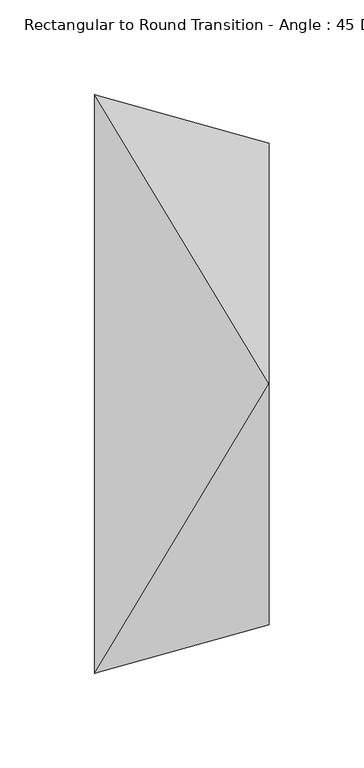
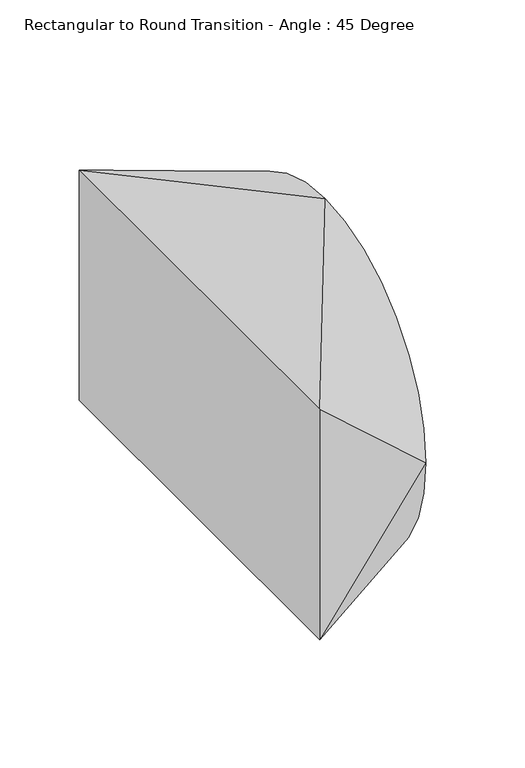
"""IFC4 building model written with IfcOpenShell, lengths in millimetres: duct fitting geometry, Rectangular to Round Transition - Angle : 45 Degree."""

import ifcopenshell
import ifcopenshell.guid

model = None  # the IFC model being written
_history = None  # IfcOwnerHistory: only IFC2X3 demands one
_inside = {}  # id of a spatial element -> (the spatial element, [elements in it])
_under = {}  # id of a project, library or spatial element -> (it, [spatial elements below it])
_declared = {}  # id of a project -> (the project, [libraries it declares])
_typed = {}  # id of a type object -> (the type object, [elements of that type])
_made_of = {}  # id of a material, layer set ... -> (it, [elements and type objects made of it])


def new_model(schema):
    """Start an empty IFC model of exactly this schema.

    Asked for "IFC4X3", IfcOpenShell would pick the latest addendum, in which some entities
    have other attributes; the version numbers below select the first issue.
    IFC2X3 requires an IfcOwnerHistory on every rooted entity: one is made here for all.
    """
    global model, _history
    if schema == "IFC4X3":
        model = ifcopenshell.file(schema_version=(4, 3, 0, 0))
    else:
        model = ifcopenshell.file(schema=schema)
    _inside.clear()
    _under.clear()
    _declared.clear()
    _typed.clear()
    _made_of.clear()
    _history = None
    if model.schema == "IFC2X3":
        org = make("IfcOrganization", Name="unknown")
        user = make(
            "IfcPersonAndOrganization",
            ThePerson=make("IfcPerson", FamilyName="unknown"),
            TheOrganization=org,
        )
        app = make(
            "IfcApplication",
            ApplicationDeveloper=org,
            Version="unknown",
            ApplicationFullName="unknown",
            ApplicationIdentifier="unknown",
        )
        _history = make(
            "IfcOwnerHistory",
            OwningUser=user,
            OwningApplication=app,
            ChangeAction="ADDED",
            CreationDate=0,
        )
    return model


def make(cls, **values):
    """One entity of the class cls with the attributes given. An attribute that is None is left unset."""
    return model.create_entity(
        cls, **{name: value for name, value in values.items() if value is not None}
    )


def rooted(cls, **values):
    """An entity with a GlobalId (a new one), such as an element, a storey or a relation."""
    return make(cls, GlobalId=ifcopenshell.guid.new(), OwnerHistory=_history, **values)


def si_unit(unit_type, name, prefix=None):
    """IfcSIUnit, for example si_unit("LENGTHUNIT", "METRE", prefix="MILLI")."""
    return make("IfcSIUnit", UnitType=unit_type, Prefix=prefix, Name=name)


def assignment(units):
    """IfcUnitAssignment: the units of a project."""
    return None if units is None else make("IfcUnitAssignment", Units=units)


def point(xyz):
    """IfcCartesianPoint."""
    return None if xyz is None else make("IfcCartesianPoint", Coordinates=xyz)


def direction(xyz):
    """IfcDirection."""
    return None if xyz is None else make("IfcDirection", DirectionRatios=xyz)


def frame(location, z_axis=None, x_axis=None):
    """IfcAxis2Placement3D, a coordinate frame: its origin and axes. An axis left out is left unset."""
    return make(
        "IfcAxis2Placement3D",
        Location=point(location),
        Axis=direction(z_axis),
        RefDirection=direction(x_axis),
    )


def origin():
    """The frame at (0, 0, 0) with its axes left unset."""
    return frame((0.0, 0.0, 0.0))


def place(relative_to, where):
    """IfcLocalPlacement: puts the frame where relative to a parent placement (None: the world)."""
    return make(
        "IfcLocalPlacement", PlacementRelTo=relative_to, RelativePlacement=where
    )


def context(
    kind, dimensions, precision=None, world=None, true_north=None, identifier=None
):
    """IfcGeometricRepresentationContext, for example the 3D "Model" context."""
    return make(
        "IfcGeometricRepresentationContext",
        ContextIdentifier=identifier,
        ContextType=kind,
        CoordinateSpaceDimension=dimensions,
        Precision=precision,
        WorldCoordinateSystem=world,
        TrueNorth=true_north,
    )


def project(units=None, contexts=None):
    """IfcProject with its units and contexts."""
    return rooted(
        "IfcProject",
        Name="project",
        RepresentationContexts=contexts,
        UnitsInContext=assignment(units),
    )


def spatial(cls, under=None, at=None, **own):
    """A site, building, storey or space (cls), placed at a placement, below another one or the project."""
    s = rooted(cls, ObjectPlacement=at, **own)
    if under is not None:
        _under.setdefault(under.id(), (under, []))[1].append(s)
    return s


def circle_curve(where, radius):
    """IfcCircle in the frame where."""
    return make("IfcCircle", Position=where, Radius=radius)


def shape(context_of_items, identifier, shape_type, items):
    """IfcShapeRepresentation: the items that make up one representation, for example the "Body"."""
    return make(
        "IfcShapeRepresentation",
        ContextOfItems=context_of_items,
        RepresentationIdentifier=identifier,
        RepresentationType=shape_type,
        Items=items,
    )


def source(mapping_origin, context_of_items, identifier, shape_type, items):
    """IfcRepresentationMap: a shape defined once, which mapped items show again and again."""
    return make(
        "IfcRepresentationMap",
        MappingOrigin=mapping_origin,
        MappedRepresentation=shape(context_of_items, identifier, shape_type, items),
    )


def transform(
    local_origin,
    x_axis=None,
    y_axis=None,
    z_axis=None,
    scale=None,
    scale2=None,
    scale3=None,
    uniform=True,
):
    """IfcCartesianTransformationOperator3D, or its non-uniform kind. x_axis, y_axis, z_axis: its Axis1, 2, 3."""
    if uniform:
        return make(
            "IfcCartesianTransformationOperator3D",
            Axis1=direction(x_axis),
            Axis2=direction(y_axis),
            LocalOrigin=point(local_origin),
            Scale=scale,
            Axis3=direction(z_axis),
        )
    return make(
        "IfcCartesianTransformationOperator3DnonUniform",
        Axis1=direction(x_axis),
        Axis2=direction(y_axis),
        LocalOrigin=point(local_origin),
        Scale=scale,
        Axis3=direction(z_axis),
        Scale2=scale2,
        Scale3=scale3,
    )


def mapped(mapping_source, mapping_target):
    """IfcMappedItem: shows the shape of a source again, moved by a transform."""
    return make(
        "IfcMappedItem", MappingSource=mapping_source, MappingTarget=mapping_target
    )


def made_of(thing, what):
    """Note that an element or type object is made of a material, layer set ...; save() writes the relation."""
    if what is not None:
        _made_of.setdefault(what.id(), (what, []))[1].append(thing)
    return thing


def element(
    cls,
    number,
    at=None,
    inside=None,
    cuts=None,
    type_object=None,
    material=None,
    context=None,
    identifier="Body",
    shape_type=None,
    held_by="IfcProductDefinitionShape",
    body=None,
    shapes=None,
    **own,
):
    """One element of the class cls, such as IfcWall. Its Tag is "e" and its number.

    at: its placement. inside: the storey or other place that contains it. cuts: it is an
    opening in that element (IfcRelVoidsElement). A single representation is given by context,
    identifier, shape_type and body (its items); several are given by shapes. held_by: the class
    of the entity that holds the representations. save() writes the other relations.
    """
    e = rooted(cls, Tag="e%d" % number, ObjectPlacement=at, **own)
    if body is not None:
        shapes = [shape(context, identifier, shape_type, body)]
    if shapes is not None:
        e.Representation = make(held_by, Representations=shapes)
    if inside is not None:
        _inside.setdefault(inside.id(), (inside, []))[1].append(e)
    if cuts is not None:
        rooted(
            "IfcRelVoidsElement", RelatingBuildingElement=cuts, RelatedOpeningElement=e
        )
    if type_object is not None:
        _typed.setdefault(type_object.id(), (type_object, []))[1].append(e)
    return made_of(e, material)


def aggregate(whole, parts):
    """IfcRelAggregates: a whole, such as a stair, and the parts it consists of."""
    return rooted("IfcRelAggregates", RelatingObject=whole, RelatedObjects=parts)


def save(model, path):
    """Write the relations noted so far, then the file.

    IfcRelAggregates (storeys below a building ...), IfcRelContainedInSpatialStructure (elements
    in a storey), IfcRelDefinesByType, IfcRelAssociatesMaterial and IfcRelDeclares: one each for
    every whole, place, type object, material and project.
    """
    for whole, parts in _under.values():
        aggregate(whole, parts)
    for where, things in _inside.values():
        rooted(
            "IfcRelContainedInSpatialStructure",
            RelatedElements=things,
            RelatingStructure=where,
        )
    for kind, things in _typed.values():
        rooted("IfcRelDefinesByType", RelatedObjects=things, RelatingType=kind)
    for what, things in _made_of.values():
        rooted("IfcRelAssociatesMaterial", RelatedObjects=things, RelatingMaterial=what)
    for by, libraries in _declared.values():
        rooted("IfcRelDeclares", RelatingContext=by, RelatedDefinitions=libraries)
    model.write(path)


def plane_surface(at):
    """IfcPlane: the flat surface through the origin of the frame at, square to its z axis."""
    return make("IfcPlane", Position=at)


def spline_surface(u_degree, v_degree, points, u_multiplicities, v_multiplicities, u_knots, v_knots, weights=None):
    """IfcBSplineSurfaceWithKnots; with weights, IfcRationalBSplineSurfaceWithKnots. points: one row for each step in u."""
    own = dict(
        UDegree=u_degree,
        VDegree=v_degree,
        ControlPointsList=[[point(p) for p in row] for row in points],
        SurfaceForm="UNSPECIFIED",
        UClosed=False,
        VClosed=False,
        SelfIntersect=False,
        UMultiplicities=u_multiplicities,
        VMultiplicities=v_multiplicities,
        UKnots=u_knots,
        VKnots=v_knots,
        KnotSpec="UNSPECIFIED",
    )
    if weights is None:
        return make("IfcBSplineSurfaceWithKnots", **own)
    return make("IfcRationalBSplineSurfaceWithKnots", WeightsData=weights, **own)


def advanced_brep(points, edges, surfaces, faces):
    """IfcAdvancedBrep: a solid bounded by faces that lie on surfaces and meet in shared edges.

    An edge is (start, end): straight between two places in points (the first is 0);
    or (start, end, curve); or (start, end, curve, False) where it runs against its curve.
    A face is (place in surfaces, loops), or (place, loops, False) where it looks against
    its surface's normal. A loop lists edges by number (the first is 1), with a minus sign
    where the edge is run from its end to its start. The first loop is the outer one.
    """
    corners = [point(p) for p in points]
    vertices = [make("IfcVertexPoint", VertexGeometry=c) for c in corners]
    made = []
    for start, end, *more in edges:
        made.append(
            make(
                "IfcEdgeCurve",
                EdgeStart=vertices[start],
                EdgeEnd=vertices[end],
                EdgeGeometry=more[0] if more else make("IfcPolyline", Points=[corners[start], corners[end]]),
                SameSense=more[1] if len(more) > 1 else True,
            )
        )
    hull = []
    for where, loops, *sense in faces:
        bounds = []
        for j, loop in enumerate(loops):
            ring = [make("IfcOrientedEdge", EdgeElement=made[abs(k) - 1], Orientation=k > 0) for k in loop]
            bounds.append(
                make(
                    "IfcFaceOuterBound" if j == 0 else "IfcFaceBound",
                    Bound=make("IfcEdgeLoop", EdgeList=ring),
                    Orientation=True,
                )
            )
        hull.append(make("IfcAdvancedFace", Bounds=bounds, FaceSurface=surfaces[where], SameSense=sense[0] if sense else True))
    return make("IfcAdvancedBrep", Outer=make("IfcClosedShell", CfsFaces=hull))


def rectangular_to_round_transition_angle_45_degree_0bd342e9(model_context):
    return source(origin(), model_context, "Body", "AdvancedBrep", [
        advanced_brep(
        [(91.9815367, 0.0, 127.0), (91.9815367, -127.0, 0.0), (91.9815367, 0.0, -127.0), (91.9815367, 127.0, 0.0), (0.0, -152.4, 88.9), (0.0, 152.4, 88.9), (0.0, 152.4, -88.9), (0.0, -152.4, -88.9)],
        [
            (0, 1, circle_curve(frame((91.9815367, 0.0, 0.0), z_axis=(1.0, 0.0, 0.0), x_axis=(0.0, 1.0, 0.0)), 127.0)),
            (1, 2, circle_curve(frame((91.9815367, 0.0, 0.0), z_axis=(1.0, 0.0, 0.0), x_axis=(0.0, 1.0, 0.0)), 127.0)),
            (2, 3, circle_curve(frame((91.9815367, 0.0, 0.0), z_axis=(1.0, 0.0, 0.0), x_axis=(0.0, 1.0, 0.0)), 127.0)),
            (3, 0, circle_curve(frame((91.9815367, 0.0, 0.0), z_axis=(1.0, 0.0, 0.0), x_axis=(0.0, 1.0, 0.0)), 127.0)),
            (4, 5),
            (5, 6),
            (6, 7),
            (7, 4),
            (0, 4),
            (4, 1),
            (7, 1),
            (7, 2),
            (6, 2),
            (6, 3),
            (5, 3),
            (5, 0),
        ],
        [
            plane_surface(frame((91.9815367, 0.0, 0.0), z_axis=(1.0, 0.0, 0.0), x_axis=(0.0, 0.0, -1.0))),
            plane_surface(frame((0.0, 0.0, 0.0), z_axis=(-1.0, 0.0, 0.0), x_axis=(0.0, 0.0, -1.0))),
            spline_surface(2, 1, [[(0.0, -152.4, 88.9), (91.9815367, 0.0, 127.0)], [(0.0, -152.4, 88.9), (91.9815367, -127.0, 127.0)], [(0.0, -152.4, 88.9), (91.9815367, -127.0, 0.0)]], [3, 3], [2, 2], [0.0, 1.0], [0.0, 1.0], weights=[[1.0, 1.0], [0.7071067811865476, 0.7071067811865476], [1.0, 1.0]]),
            plane_surface(frame((0.0, -152.4, 0.0), z_axis=(0.26618007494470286, -0.9639233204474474, 0.0), x_axis=(0.0, 0.0, -1.0))),
            spline_surface(2, 1, [[(0.0, -152.4, -88.9), (91.9815367, -127.0, 0.0)], [(0.0, -152.4, -88.9), (91.9815367, -127.0, -127.0)], [(0.0, -152.4, -88.9), (91.9815367, 0.0, -127.0)]], [3, 3], [2, 2], [0.0, 1.0], [0.0, 1.0], weights=[[1.0, 1.0], [0.7071067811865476, 0.7071067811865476], [1.0, 1.0]]),
            plane_surface(frame((0.0, 0.0, -88.9), z_axis=(-0.38268343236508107, 0.0, -0.9238795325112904), x_axis=(0.0, 1.0, 0.0))),
            spline_surface(2, 1, [[(0.0, 152.4, -88.9), (91.9815367, 0.0, -127.0)], [(0.0, 152.4, -88.9), (91.9815367, 127.0, -127.0)], [(0.0, 152.4, -88.9), (91.9815367, 127.0, 0.0)]], [3, 3], [2, 2], [0.0, 1.0], [0.0, 1.0], weights=[[1.0, 1.0], [0.7071067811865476, 0.7071067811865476], [1.0, 1.0]]),
            plane_surface(frame((0.0, 152.4, 0.0), z_axis=(0.26618007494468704, 0.9639233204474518, 0.0), x_axis=(0.0, 0.0, 1.0))),
            spline_surface(2, 1, [[(0.0, 152.4, 88.9), (91.9815367, 127.0, 0.0)], [(0.0, 152.4, 88.9), (91.9815367, 127.0, 127.0)], [(0.0, 152.4, 88.9), (91.9815367, 0.0, 127.0)]], [3, 3], [2, 2], [0.0, 1.0], [0.0, 1.0], weights=[[1.0, 1.0], [0.7071067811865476, 0.7071067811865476], [1.0, 1.0]]),
            plane_surface(frame((0.0, 0.0, 88.9), z_axis=(-0.3826834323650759, 0.0, 0.9238795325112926), x_axis=(0.0, -1.0, 0.0))),
        ],
        [
            (0, [[1, 2, 3, 4]]),
            (1, [[5, 6, 7, 8]]),
            (2, [[-1, 9, 10]]),
            (3, [[-8, 11, -10]]),
            (4, [[-2, -11, 12]]),
            (5, [[-7, 13, -12]]),
            (6, [[-3, -13, 14]]),
            (7, [[-6, 15, -14]]),
            (8, [[-4, -15, 16]]),
            (9, [[-5, -9, -16]]),
        ],
    ),
    ])


if __name__ == "__main__":
    model = new_model("IFC4")
    model_context = context("Model", 3, world=origin())
    ifc_project = project(units=[si_unit("LENGTHUNIT", "METRE", prefix="MILLI")], contexts=[model_context])
    site = spatial("IfcSite", under=ifc_project)
    building = spatial("IfcBuilding", under=site)
    placement = place(None, origin())
    rectangular_to_round_transition_angle_45_degree_shape = rectangular_to_round_transition_angle_45_degree_0bd342e9(model_context)
    element("IfcDuctFitting", 1, ObjectType="Rectangular to Round Transition - Angle : 45 Degree", at=placement, inside=building, context=model_context, shape_type="MappedRepresentation", body=[
        mapped(rectangular_to_round_transition_angle_45_degree_shape, transform((0.0, 0.0, 0.0), x_axis=(1.0, 0.0, 0.0), y_axis=(0.0, 1.0, 0.0), z_axis=(0.0, 0.0, 1.0))),
    ])
    save(model, "model.ifc")
